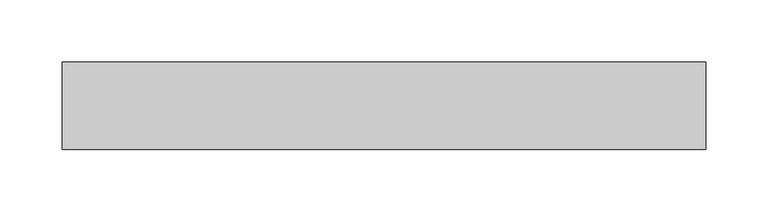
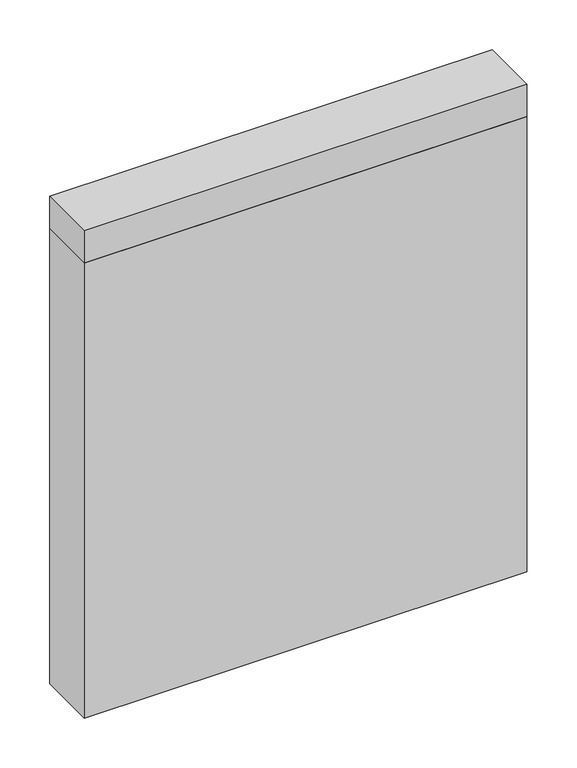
"""IFC4 building model written with IfcOpenShell, lengths in millimetres: plate geometry, 営_パーティションパネル_上部 : パーティションパネル_上部."""

from ifc_helpers import new_model, si_unit, frame, origin, origin_with_axes, place, context, project, spatial, polyline, outline, extrude, source, transform, mapped, element, save


def plate_9f777739(model_context):
    return source(origin(), model_context, "Body", "SweptSolid", [
        extrude(outline(polyline([(-257.5, -35.0), (-257.5, 35.0), (257.5, 35.0), (257.5, -35.0), (-257.5, -35.0)])), origin_with_axes(), (0.0, 0.0, 1.0), 560.0),
        extrude(outline(polyline([(-257.5, -35.0), (-257.5, 35.0), (257.5, 35.0), (257.5, -35.0), (-257.5, -35.0)])), frame((0.0, 0.0, 560.0), z_axis=(0.0, 0.0, 1.0), x_axis=(1.0, 0.0, 0.0)), (0.0, 0.0, 1.0), 40.0),
    ])


if __name__ == "__main__":
    model = new_model("IFC4")
    model_context = context("Model", 3, world=origin())
    ifc_project = project(units=[si_unit("LENGTHUNIT", "METRE", prefix="MILLI")], contexts=[model_context])
    site = spatial("IfcSite", under=ifc_project)
    building = spatial("IfcBuilding", under=site)
    placement = place(None, origin())
    plate_shape = plate_9f777739(model_context)
    element("IfcPlate", 1, ObjectType="営_パーティションパネル_上部 : パーティションパネル_上部", at=placement, inside=building, context=model_context, shape_type="MappedRepresentation", body=[
        mapped(plate_shape, transform((0.0, 0.0, 0.0), x_axis=(1.0, 0.0, 0.0), y_axis=(0.0, 1.0, 0.0), z_axis=(0.0, 0.0, 1.0))),
    ])
    save(model, "model.ifc")
